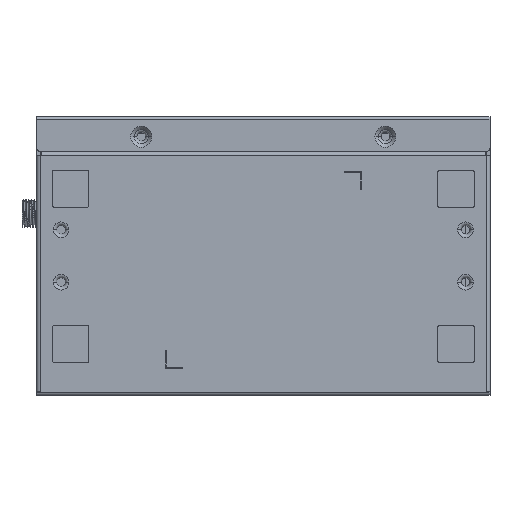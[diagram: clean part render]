
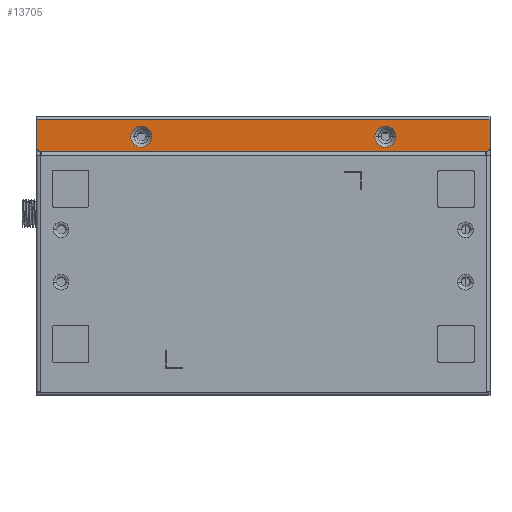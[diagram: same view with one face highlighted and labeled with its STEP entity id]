
A CAD part, front view. The second image highlights one B-rep face of the part: STEP entity #13705.
In plain terms, the highlighted planar face has unit normal (0, -1, 0).
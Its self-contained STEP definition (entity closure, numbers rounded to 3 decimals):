
#11894=DIRECTION('',(1.,0.,0.));
#11895=VECTOR('',#11894,128.);
#11896=CARTESIAN_POINT('',(-64.,0.,30.));
#11897=LINE('',#11896,#11895);
#11898=CARTESIAN_POINT('',(-64.,0.,31.));
#11899=DIRECTION('',(0.,-1.,0.));
#11900=DIRECTION('',(-1.,0.,0.));
#11901=AXIS2_PLACEMENT_3D('',#11898,#11899,#11900);
#11903=DIRECTION('',(0.,0.,-1.));
#11904=VECTOR('',#11903,8.);
#11905=CARTESIAN_POINT('',(-65.,0.,39.));
#11906=LINE('',#11905,#11904);
#11907=DIRECTION('',(0.,0.,1.));
#11908=VECTOR('',#11907,8.);
#11909=CARTESIAN_POINT('',(65.,0.,31.));
#11910=LINE('',#11909,#11908);
#11911=CARTESIAN_POINT('',(64.,0.,31.));
#11912=DIRECTION('',(0.,-1.,0.));
#11913=DIRECTION('',(0.,0.,-1.));
#11914=AXIS2_PLACEMENT_3D('',#11911,#11912,#11913);
#11916=CARTESIAN_POINT('',(-35.,0.,34.2));
#11917=DIRECTION('',(0.,1.,0.));
#11918=DIRECTION('',(1.,0.,0.));
#11919=AXIS2_PLACEMENT_3D('',#11916,#11917,#11918);
#11921=CARTESIAN_POINT('',(-35.,0.,34.2));
#11922=DIRECTION('',(0.,1.,0.));
#11923=DIRECTION('',(0.,0.,1.));
#11924=AXIS2_PLACEMENT_3D('',#11921,#11922,#11923);
#11926=CARTESIAN_POINT('',(-35.,0.,34.2));
#11927=DIRECTION('',(0.,1.,0.));
#11928=DIRECTION('',(-1.,0.,0.));
#11929=AXIS2_PLACEMENT_3D('',#11926,#11927,#11928);
#11931=CARTESIAN_POINT('',(-35.,0.,34.2));
#11932=DIRECTION('',(0.,1.,0.));
#11933=DIRECTION('',(0.,0.,-1.));
#11934=AXIS2_PLACEMENT_3D('',#11931,#11932,#11933);
#11936=CARTESIAN_POINT('',(35.,0.,34.2));
#11937=DIRECTION('',(0.,1.,0.));
#11938=DIRECTION('',(1.,0.,0.));
#11939=AXIS2_PLACEMENT_3D('',#11936,#11937,#11938);
#11941=CARTESIAN_POINT('',(35.,0.,34.2));
#11942=DIRECTION('',(0.,1.,0.));
#11943=DIRECTION('',(0.,0.,1.));
#11944=AXIS2_PLACEMENT_3D('',#11941,#11942,#11943);
#11946=CARTESIAN_POINT('',(35.,0.,34.2));
#11947=DIRECTION('',(0.,1.,0.));
#11948=DIRECTION('',(-1.,0.,0.));
#11949=AXIS2_PLACEMENT_3D('',#11946,#11947,#11948);
#11951=CARTESIAN_POINT('',(35.,0.,34.2));
#11952=DIRECTION('',(0.,1.,0.));
#11953=DIRECTION('',(0.,0.,-1.));
#11954=AXIS2_PLACEMENT_3D('',#11951,#11952,#11953);
#12581=DIRECTION('',(1.,0.,0.));
#12582=VECTOR('',#12581,130.);
#12583=CARTESIAN_POINT('',(-65.,0.,39.));
#12584=LINE('',#12583,#12582);
#13266=CARTESIAN_POINT('',(-64.,0.,30.));
#13267=CARTESIAN_POINT('',(64.,0.,30.));
#13268=VERTEX_POINT('',#13266);
#13269=VERTEX_POINT('',#13267);
#13270=CARTESIAN_POINT('',(-38.,0.,
34.2));
#13272=VERTEX_POINT('',#13270);
#13274=CARTESIAN_POINT('',(-35.,0.,31.2));
#13275=VERTEX_POINT('',#13274);
#13276=CARTESIAN_POINT('',(-32.,0.,34.2));
#13277=VERTEX_POINT('',#13276);
#13278=CARTESIAN_POINT('',(65.,0.,31.));
#13279=VERTEX_POINT('',#13278);
#13280=CARTESIAN_POINT('',(-65.,0.,31.));
#13281=VERTEX_POINT('',#13280);
#13286=CARTESIAN_POINT('',(-35.,0.,37.2));
#13287=VERTEX_POINT('',#13286);
#13288=CARTESIAN_POINT('',(35.,0.,31.2));
#13289=CARTESIAN_POINT('',(32.,0.,34.2));
#13290=VERTEX_POINT('',#13288);
#13291=VERTEX_POINT('',#13289);
#13292=CARTESIAN_POINT('',(38.,0.,34.2));
#13293=VERTEX_POINT('',#13292);
#13294=CARTESIAN_POINT('',(65.,0.,39.));
#13295=VERTEX_POINT('',#13294);
#13296=CARTESIAN_POINT('',(-65.,0.,39.));
#13297=VERTEX_POINT('',#13296);
#13308=CARTESIAN_POINT('',(35.,0.,37.2));
#13309=VERTEX_POINT('',#13308);
#13666=CARTESIAN_POINT('',(0.,0.,0.));
#13667=DIRECTION('',(0.,-1.,0.));
#13668=DIRECTION('',(0.,0.,-1.));
#13669=AXIS2_PLACEMENT_3D('',#13666,#13667,#13668);
#13670=PLANE('',#13669);
#13672=ORIENTED_EDGE('',*,*,#13671,.F.);
#13674=ORIENTED_EDGE('',*,*,#13673,.F.);
#13676=ORIENTED_EDGE('',*,*,#13675,.F.);
#13678=ORIENTED_EDGE('',*,*,#13677,.T.);
#13680=ORIENTED_EDGE('',*,*,#13679,.F.);
#13682=ORIENTED_EDGE('',*,*,#13681,.F.);
#13683=EDGE_LOOP('',(#13672,#13674,#13676,#13678,#13680,#13682));
#13684=FACE_OUTER_BOUND('',#13683,.F.);
#13686=ORIENTED_EDGE('',*,*,#13685,.F.);
#13688=ORIENTED_EDGE('',*,*,#13687,.F.);
#13690=ORIENTED_EDGE('',*,*,#13689,.F.);
#13692=ORIENTED_EDGE('',*,*,#13691,.F.);
#13693=EDGE_LOOP('',(#13686,#13688,#13690,#13692));
#13694=FACE_BOUND('',#13693,.F.);
#13696=ORIENTED_EDGE('',*,*,#13695,.F.);
#13698=ORIENTED_EDGE('',*,*,#13697,.F.);
#13700=ORIENTED_EDGE('',*,*,#13699,.F.);
#13702=ORIENTED_EDGE('',*,*,#13701,.F.);
#13703=EDGE_LOOP('',(#13696,#13698,#13700,#13702));
#13704=FACE_BOUND('',#13703,.F.);
#13705=ADVANCED_FACE('',(#13684,#13694,#13704),#13670,.T.);
#11902=CIRCLE('',#11901,1.);
#11915=CIRCLE('',#11914,1.);
#11920=CIRCLE('',#11919,3.);
#11925=CIRCLE('',#11924,3.);
#11930=CIRCLE('',#11929,3.);
#11935=CIRCLE('',#11934,3.);
#11940=CIRCLE('',#11939,3.);
#11945=CIRCLE('',#11944,3.);
#11950=CIRCLE('',#11949,3.);
#11955=CIRCLE('',#11954,3.);
#13671=EDGE_CURVE('',#13268,#13269,#11897,.T.);
#13673=EDGE_CURVE('',#13281,#13268,#11902,.T.);
#13675=EDGE_CURVE('',#13297,#13281,#11906,.T.);
#13677=EDGE_CURVE('',#13297,#13295,#12584,.T.);
#13679=EDGE_CURVE('',#13279,#13295,#11910,.T.);
#13681=EDGE_CURVE('',#13269,#13279,#11915,.T.);
#13685=EDGE_CURVE('',#13277,#13275,#11920,.T.);
#13687=EDGE_CURVE('',#13287,#13277,#11925,.T.);
#13689=EDGE_CURVE('',#13272,#13287,#11930,.T.);
#13691=EDGE_CURVE('',#13275,#13272,#11935,.T.);
#13695=EDGE_CURVE('',#13293,#13290,#11940,.T.);
#13697=EDGE_CURVE('',#13309,#13293,#11945,.T.);
#13699=EDGE_CURVE('',#13291,#13309,#11950,.T.);
#13701=EDGE_CURVE('',#13290,#13291,#11955,.T.);
